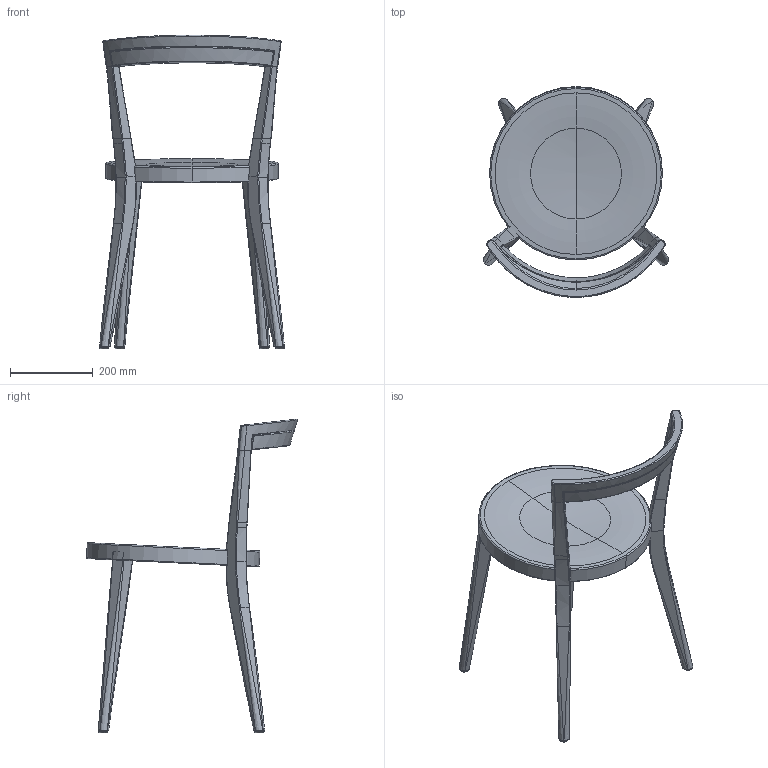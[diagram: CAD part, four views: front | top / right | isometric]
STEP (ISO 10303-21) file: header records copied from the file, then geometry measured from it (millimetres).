
FILE_DESCRIPTION (( 'STEP AP214' ), '1' );
FILE_NAME ('AU2510314_REKO_Stuhl_ohne_Armlehne_20250325.STEP', '2025-03-25T13:42:54', ( '' ), ( '' ), 'SwSTEP 2.0', 'SolidWorks 2024', '' );
FILE_SCHEMA (( 'AUTOMOTIVE_DESIGN' ));
Length unit declared in the file: millimetre
Products named in the file (1): AU2510314_REKO_Stuhl_ohne_Armlehne_20250325
Bounding box: 449.2 x 511.35 x 760.46 mm (x, y, z)
Volume: 4854457.2 mm3; surface area: 747340.8 mm2
Topology: 5 solids, 5 shells, 293 faces, 706 edges, 431 vertices
Faces by surface type: bspline 102, plane 74, cylinder 59, torus 42, sphere 10, cone 6
Entity records: 15005 total; most frequent: CARTESIAN_POINT 9180, ORIENTED_EDGE 1400, DIRECTION 916, EDGE_CURVE 700, VERTEX_POINT 427, AXIS2_PLACEMENT_3D 369, EDGE_LOOP 303, FACE_OUTER_BOUND 293
